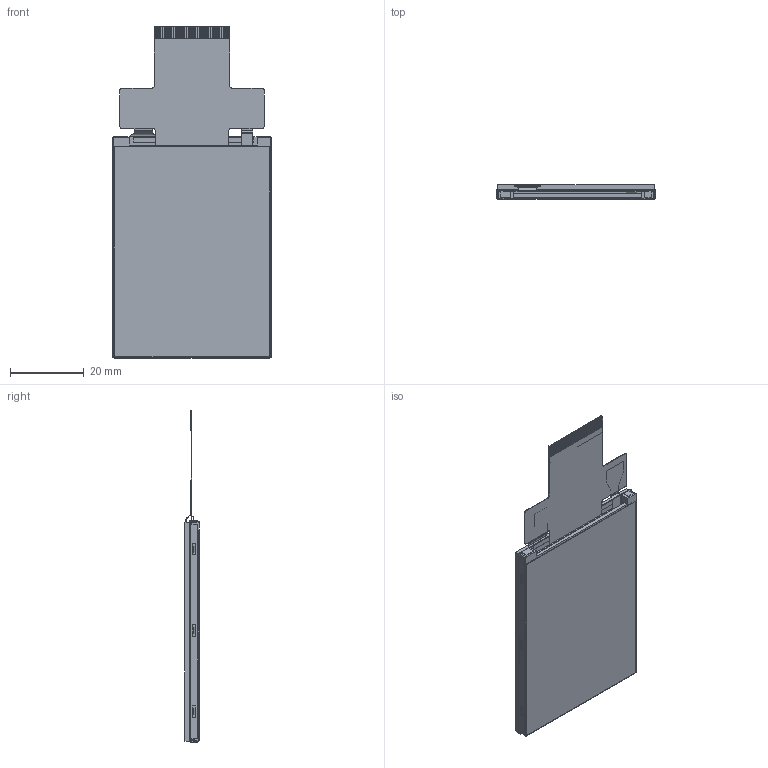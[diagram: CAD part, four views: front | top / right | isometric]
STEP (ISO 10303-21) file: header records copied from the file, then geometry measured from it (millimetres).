
FILE_DESCRIPTION (( 'STEP AP203' ), '1' );
FILE_NAME ('NHD-2.4-240320AF-CSXP-T_Rev2A.STEP', '2023-06-15T21:28:43', ( '' ), ( '' ), 'SwSTEP 2.0', 'SolidWorks 2019', '' );
FILE_SCHEMA (( 'CONFIG_CONTROL_DESIGN' ));
Length unit declared in the file: millimetre
Products named in the file (1): NHD-2.4-240320AF-CSXP-T_Rev2A
Bounding box: 42.8 x 3.85 x 89.91 mm (x, y, z)
Volume: 8579.2 mm3; surface area: 24747.4 mm2
Topology: 47 solids, 47 shells, 534 faces, 1265 edges, 836 vertices
Faces by surface type: plane 478, cylinder 49, bspline 6, torus 1
Entity records: 15211 total; most frequent: CARTESIAN_POINT 2808, ORIENTED_EDGE 2526, DIRECTION 2390, EDGE_CURVE 1263, VECTOR 1154, LINE 1154, VERTEX_POINT 836, AXIS2_PLACEMENT_3D 618
